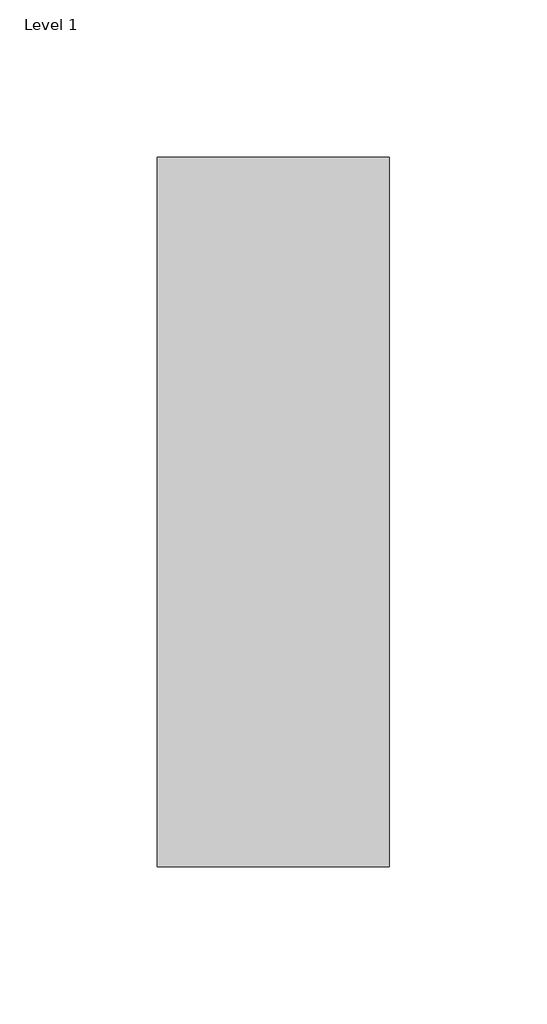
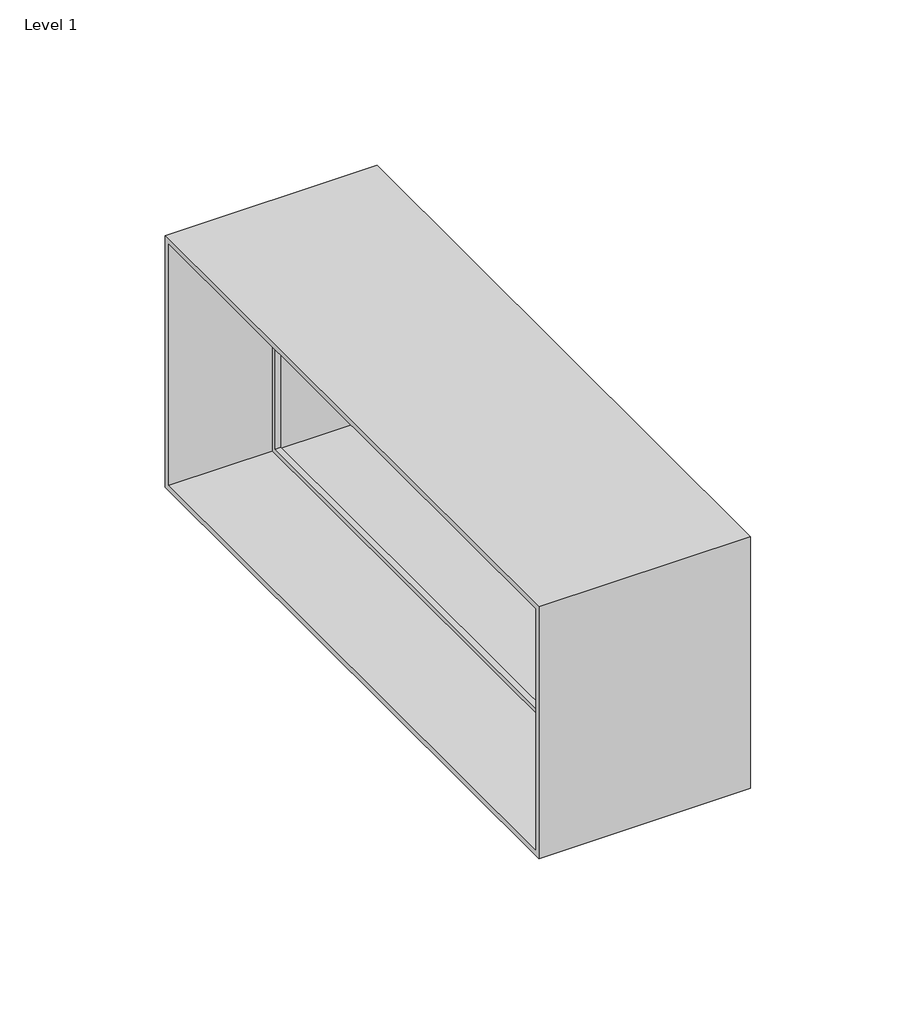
# One storey: 1 proxy.
"""IFC4 building model written with IfcOpenShell, lengths in millimetres."""

import ifcopenshell
import ifcopenshell.guid

model = None  # the IFC model being written
_history = None  # IfcOwnerHistory: only IFC2X3 demands one
_inside = {}  # id of a spatial element -> (the spatial element, [elements in it])
_under = {}  # id of a project, library or spatial element -> (it, [spatial elements below it])
_declared = {}  # id of a project -> (the project, [libraries it declares])
_typed = {}  # id of a type object -> (the type object, [elements of that type])
_made_of = {}  # id of a material, layer set ... -> (it, [elements and type objects made of it])


def new_model(schema):
    """Start an empty IFC model of exactly this schema.

    Asked for "IFC4X3", IfcOpenShell would pick the latest addendum, in which some entities
    have other attributes; the version numbers below select the first issue.
    IFC2X3 requires an IfcOwnerHistory on every rooted entity: one is made here for all.
    """
    global model, _history
    if schema == "IFC4X3":
        model = ifcopenshell.file(schema_version=(4, 3, 0, 0))
    else:
        model = ifcopenshell.file(schema=schema)
    _inside.clear()
    _under.clear()
    _declared.clear()
    _typed.clear()
    _made_of.clear()
    _history = None
    if model.schema == "IFC2X3":
        org = make("IfcOrganization", Name="unknown")
        user = make(
            "IfcPersonAndOrganization",
            ThePerson=make("IfcPerson", FamilyName="unknown"),
            TheOrganization=org,
        )
        app = make(
            "IfcApplication",
            ApplicationDeveloper=org,
            Version="unknown",
            ApplicationFullName="unknown",
            ApplicationIdentifier="unknown",
        )
        _history = make(
            "IfcOwnerHistory",
            OwningUser=user,
            OwningApplication=app,
            ChangeAction="ADDED",
            CreationDate=0,
        )
    return model


def make(cls, **values):
    """One entity of the class cls with the attributes given. An attribute that is None is left unset."""
    return model.create_entity(
        cls, **{name: value for name, value in values.items() if value is not None}
    )


def rooted(cls, **values):
    """An entity with a GlobalId (a new one), such as an element, a storey or a relation."""
    return make(cls, GlobalId=ifcopenshell.guid.new(), OwnerHistory=_history, **values)


def si_unit(unit_type, name, prefix=None):
    """IfcSIUnit, for example si_unit("LENGTHUNIT", "METRE", prefix="MILLI")."""
    return make("IfcSIUnit", UnitType=unit_type, Prefix=prefix, Name=name)


def assignment(units):
    """IfcUnitAssignment: the units of a project."""
    return None if units is None else make("IfcUnitAssignment", Units=units)


def point(xyz):
    """IfcCartesianPoint."""
    return None if xyz is None else make("IfcCartesianPoint", Coordinates=xyz)


def direction(xyz):
    """IfcDirection."""
    return None if xyz is None else make("IfcDirection", DirectionRatios=xyz)


def frame(location, z_axis=None, x_axis=None):
    """IfcAxis2Placement3D, a coordinate frame: its origin and axes. An axis left out is left unset."""
    return make(
        "IfcAxis2Placement3D",
        Location=point(location),
        Axis=direction(z_axis),
        RefDirection=direction(x_axis),
    )


def origin():
    """The frame at (0, 0, 0) with its axes left unset."""
    return frame((0.0, 0.0, 0.0))


def place(relative_to, where):
    """IfcLocalPlacement: puts the frame where relative to a parent placement (None: the world)."""
    return make(
        "IfcLocalPlacement", PlacementRelTo=relative_to, RelativePlacement=where
    )


def context(
    kind, dimensions, precision=None, world=None, true_north=None, identifier=None
):
    """IfcGeometricRepresentationContext, for example the 3D "Model" context."""
    return make(
        "IfcGeometricRepresentationContext",
        ContextIdentifier=identifier,
        ContextType=kind,
        CoordinateSpaceDimension=dimensions,
        Precision=precision,
        WorldCoordinateSystem=world,
        TrueNorth=true_north,
    )


def project(units=None, contexts=None):
    """IfcProject with its units and contexts."""
    return rooted(
        "IfcProject",
        Name="project",
        RepresentationContexts=contexts,
        UnitsInContext=assignment(units),
    )


def spatial(cls, under=None, at=None, **own):
    """A site, building, storey or space (cls), placed at a placement, below another one or the project."""
    s = rooted(cls, ObjectPlacement=at, **own)
    if under is not None:
        _under.setdefault(under.id(), (under, []))[1].append(s)
    return s


def polyline(points):
    """IfcPolyline through the points."""
    return make("IfcPolyline", Points=[point(p) for p in points])


def outline(outer, holes=None, kind="AREA"):
    """IfcArbitraryClosedProfileDef: a profile drawn as a closed curve; with holes, ...WithVoids."""
    if holes is None:
        return make("IfcArbitraryClosedProfileDef", ProfileType=kind, OuterCurve=outer)
    return make(
        "IfcArbitraryProfileDefWithVoids",
        ProfileType=kind,
        OuterCurve=outer,
        InnerCurves=holes,
    )


def extrude(swept, where, along, depth):
    """IfcExtrudedAreaSolid: the profile swept, set in the frame where, extruded along a direction by depth."""
    return make(
        "IfcExtrudedAreaSolid",
        SweptArea=swept,
        Position=where,
        ExtrudedDirection=direction(along),
        Depth=depth,
    )


def shape(context_of_items, identifier, shape_type, items):
    """IfcShapeRepresentation: the items that make up one representation, for example the "Body"."""
    return make(
        "IfcShapeRepresentation",
        ContextOfItems=context_of_items,
        RepresentationIdentifier=identifier,
        RepresentationType=shape_type,
        Items=items,
    )


def source(mapping_origin, context_of_items, identifier, shape_type, items):
    """IfcRepresentationMap: a shape defined once, which mapped items show again and again."""
    return make(
        "IfcRepresentationMap",
        MappingOrigin=mapping_origin,
        MappedRepresentation=shape(context_of_items, identifier, shape_type, items),
    )


def transform(
    local_origin,
    x_axis=None,
    y_axis=None,
    z_axis=None,
    scale=None,
    scale2=None,
    scale3=None,
    uniform=True,
):
    """IfcCartesianTransformationOperator3D, or its non-uniform kind. x_axis, y_axis, z_axis: its Axis1, 2, 3."""
    if uniform:
        return make(
            "IfcCartesianTransformationOperator3D",
            Axis1=direction(x_axis),
            Axis2=direction(y_axis),
            LocalOrigin=point(local_origin),
            Scale=scale,
            Axis3=direction(z_axis),
        )
    return make(
        "IfcCartesianTransformationOperator3DnonUniform",
        Axis1=direction(x_axis),
        Axis2=direction(y_axis),
        LocalOrigin=point(local_origin),
        Scale=scale,
        Axis3=direction(z_axis),
        Scale2=scale2,
        Scale3=scale3,
    )


def mapped(mapping_source, mapping_target):
    """IfcMappedItem: shows the shape of a source again, moved by a transform."""
    return make(
        "IfcMappedItem", MappingSource=mapping_source, MappingTarget=mapping_target
    )


def made_of(thing, what):
    """Note that an element or type object is made of a material, layer set ...; save() writes the relation."""
    if what is not None:
        _made_of.setdefault(what.id(), (what, []))[1].append(thing)
    return thing


def element(
    cls,
    number,
    at=None,
    inside=None,
    cuts=None,
    type_object=None,
    material=None,
    context=None,
    identifier="Body",
    shape_type=None,
    held_by="IfcProductDefinitionShape",
    body=None,
    shapes=None,
    **own,
):
    """One element of the class cls, such as IfcWall. Its Tag is "e" and its number.

    at: its placement. inside: the storey or other place that contains it. cuts: it is an
    opening in that element (IfcRelVoidsElement). A single representation is given by context,
    identifier, shape_type and body (its items); several are given by shapes. held_by: the class
    of the entity that holds the representations. save() writes the other relations.
    """
    e = rooted(cls, Tag="e%d" % number, ObjectPlacement=at, **own)
    if body is not None:
        shapes = [shape(context, identifier, shape_type, body)]
    if shapes is not None:
        e.Representation = make(held_by, Representations=shapes)
    if inside is not None:
        _inside.setdefault(inside.id(), (inside, []))[1].append(e)
    if cuts is not None:
        rooted(
            "IfcRelVoidsElement", RelatingBuildingElement=cuts, RelatedOpeningElement=e
        )
    if type_object is not None:
        _typed.setdefault(type_object.id(), (type_object, []))[1].append(e)
    return made_of(e, material)


def aggregate(whole, parts):
    """IfcRelAggregates: a whole, such as a stair, and the parts it consists of."""
    return rooted("IfcRelAggregates", RelatingObject=whole, RelatedObjects=parts)


def save(model, path):
    """Write the relations noted so far, then the file.

    IfcRelAggregates (storeys below a building ...), IfcRelContainedInSpatialStructure (elements
    in a storey), IfcRelDefinesByType, IfcRelAssociatesMaterial and IfcRelDeclares: one each for
    every whole, place, type object, material and project.
    """
    for whole, parts in _under.values():
        aggregate(whole, parts)
    for where, things in _inside.values():
        rooted(
            "IfcRelContainedInSpatialStructure",
            RelatedElements=things,
            RelatingStructure=where,
        )
    for kind, things in _typed.values():
        rooted("IfcRelDefinesByType", RelatedObjects=things, RelatingType=kind)
    for what, things in _made_of.values():
        rooted("IfcRelAssociatesMaterial", RelatedObjects=things, RelatingMaterial=what)
    for by, libraries in _declared.values():
        rooted("IfcRelDeclares", RelatingContext=by, RelatedDefinitions=libraries)
    model.write(path)


def specialty_equipment_1c8cee5e(model_context):
    return source(origin(), model_context, "Body", "SweptSolid", [
        extrude(outline(polyline([(-113.0, 46.5), (113.0, 46.5), (113.0, -46.5), (-113.0, -46.5), (-113.0, 46.5)]), holes=[polyline([(111.0, 44.5), (-111.0, 44.5), (-111.0, -44.5), (111.0, -44.5), (111.0, 44.5)])]), frame((0.0, 0.0, 0.0), z_axis=(1.0, 0.0, 0.0), x_axis=(0.0, 1.0, 0.0)), (0.0, 0.0, 1.0), 74.0),
        extrude(outline(polyline([(111.0, 44.5), (111.0, -44.5), (-111.0, -44.5), (-111.0, 44.5), (111.0, 44.5)]), holes=[polyline([(109.0, 42.5), (-109.0, 42.5), (-109.0, -42.5), (109.0, -42.5), (109.0, 42.5)])]), frame((36.0, 0.0, 0.0), z_axis=(1.0, 0.0, 0.0), x_axis=(0.0, 1.0, 0.0)), (0.0, 0.0, 1.0), 2.0),
    ])


model = new_model("IFC4")

# Units and contexts
model_context = context("Model", 3, world=origin())
ifc_project = project(units=[si_unit("LENGTHUNIT", "METRE", prefix="MILLI")], contexts=[model_context])

# Site, building, storey
site = spatial("IfcSite", under=ifc_project)
building = spatial("IfcBuilding", under=site)
storey = spatial("IfcBuildingStorey", under=building, Name="Level 1", Elevation=0.0)

# Proxy
placement = place(None, origin())
specialty_equipment_shape = specialty_equipment_1c8cee5e(model_context)
element("IfcBuildingElementProxy", 1, Name="10811360_D_DFK-V : 28996389_D_10811360_DFK-V", ObjectType="10811360_D_DFK-V : 28996389_D_10811360_DFK-V", at=placement, inside=storey, context=model_context, shape_type="MappedRepresentation", body=[
    mapped(specialty_equipment_shape, transform((0.0, 0.0, 0.0), x_axis=(1.0, 0.0, 0.0), y_axis=(0.0, 1.0, 0.0), z_axis=(0.0, 0.0, 1.0))),
])

save(model, "model.ifc")
